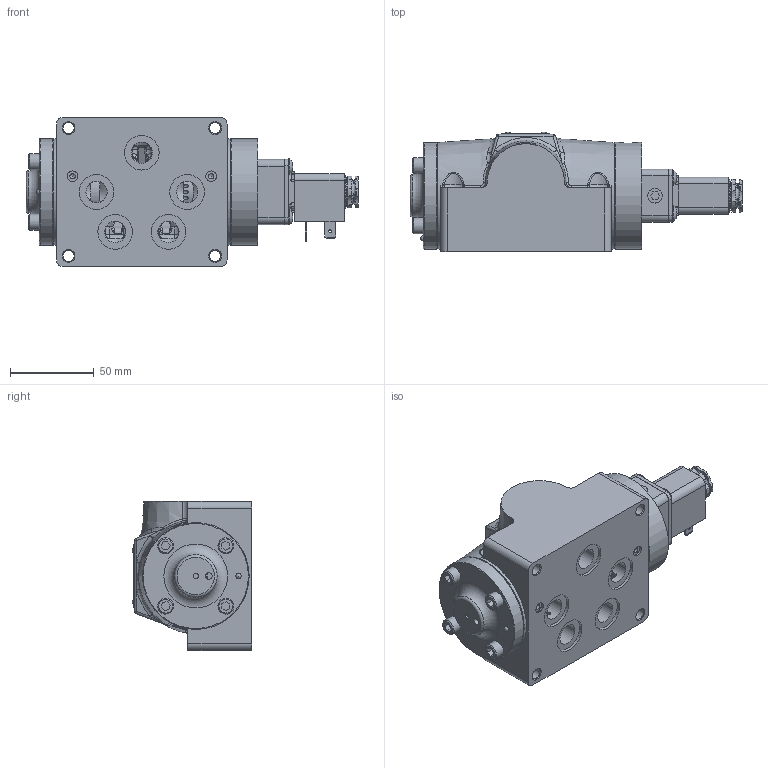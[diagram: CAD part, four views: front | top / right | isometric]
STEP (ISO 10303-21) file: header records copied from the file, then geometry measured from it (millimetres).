
FILE_DESCRIPTION(/* description */ (''),/* implementation_level */ '2;1');
FILE_NAME(/* name */ 'D:\Website New\Valves\Standard\ESO\stp\ESO4PCZ.stp',/* time_stamp */ '2020-03-03T20:26:48-05:00',/* author */ ('RMcKenna'),/* organization */ (''),/* preprocessor_version */ 'ST-DEVELOPER v17',/* originating_system */ 'Autodesk Inventor 2018',/* authorisation */ '');
FILE_SCHEMA (('AUTOMOTIVE_DESIGN { 1 0 10303 214 3 1 1 }'));
Products named in the file (1): Part7
Bounding box: 197.84 x 71.21 x 88.9 mm (x, y, z)
Volume: 553406.2 mm3; surface area: 130681.2 mm2
Topology: 1 solids, 32 shells, 2178 faces, 5415 edges, 3439 vertices
Faces by surface type: plane 813, cylinder 539, cone 325, bspline 325, torus 153, sphere 23
Full cylindrical faces by diameter (mm): 1.168 x10, 1.3 x1, 1.397 x1, 1.5 x1, 1.651 x3, 2.032 x4, 2.07 x2, 2.261 x2, 2.35 x4, 2.388 x1, 2.464 x1, 2.778 x2, 2.8 x1, 2.819 x1, 3 x4, 3.048 x5, 3.175 x5, 3.4 x1, 3.683 x5, 3.969 x1, 4.191 x2, 4.826 x4, 4.953 x1, 4.978 x8, 5.15 x4, 5.156 x4, 5.5 x1, 6.35 x10, 6.553 x1, 6.629 x4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
Entity records: 84189 total; most frequent: CARTESIAN_POINT 32103, ORIENTED_EDGE 10740, DIRECTION 9658, EDGE_CURVE 5370, AXIS2_PLACEMENT_3D 3653, VERTEX_POINT 3437, EDGE_LOOP 2461, LINE 2352
